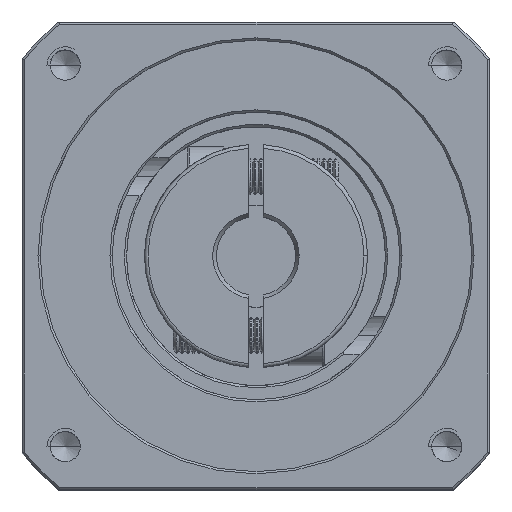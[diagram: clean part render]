
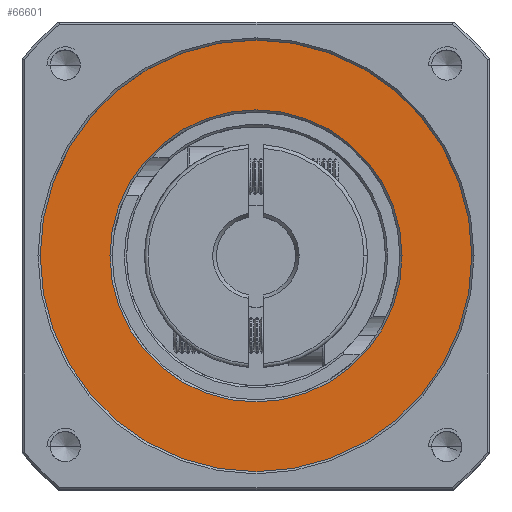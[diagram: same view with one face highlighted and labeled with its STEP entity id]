
A CAD part, top view. The second image highlights one B-rep face of the part: STEP entity #66601.
In plain terms, the highlighted planar face has unit normal (0, 0, 1).
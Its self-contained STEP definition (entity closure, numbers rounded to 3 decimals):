
#83 = DIRECTION ( 'NONE',  ( 0., 0., 1. ) ) ;
#1855 = ORIENTED_EDGE ( 'NONE', *, *, #32739, .T. ) ;
#6867 = AXIS2_PLACEMENT_3D ( 'NONE', #15911, #16289, #63789 ) ;
#12325 = VERTEX_POINT ( 'NONE', #38312 ) ;
#12910 = AXIS2_PLACEMENT_3D ( 'NONE', #52652, #28027, #35038 ) ;
#15540 = CIRCLE ( 'NONE', #57339, 30. ) ;
#15911 = CARTESIAN_POINT ( 'NONE',  ( -61.9, 23.265, 17.333 ) ) ;
#16289 = DIRECTION ( 'NONE',  ( 0., 0., 1. ) ) ;
#17700 = VERTEX_POINT ( 'NONE', #97624 ) ;
#17838 = DIRECTION ( 'NONE',  ( 1., 0., 0. ) ) ;
#20551 = ORIENTED_EDGE ( 'NONE', *, *, #92942, .T. ) ;
#22013 = EDGE_CURVE ( 'NONE', #17700, #22498, #64901, .T. ) ;
#22498 = VERTEX_POINT ( 'NONE', #78867 ) ;
#23846 = CARTESIAN_POINT ( 'NONE',  ( -61.9, 23.265, 17.333 ) ) ;
#27054 = EDGE_LOOP ( 'NONE', ( #20551, #105426 ) ) ;
#27997 = CARTESIAN_POINT ( 'NONE',  ( -61.9, 23.265, 17.333 ) ) ;
#28027 = DIRECTION ( 'NONE',  ( 0., 0., -1. ) ) ;
#32739 = EDGE_CURVE ( 'NONE', #12325, #44947, #79956, .T. ) ;
#35038 = DIRECTION ( 'NONE',  ( 1., 0., 0. ) ) ;
#36054 = DIRECTION ( 'NONE',  ( 0., 0., -1. ) ) ;
#38312 = CARTESIAN_POINT ( 'NONE',  ( -41.6, 23.265, 17.333 ) ) ;
#44947 = VERTEX_POINT ( 'NONE', #86446 ) ;
#49536 = AXIS2_PLACEMENT_3D ( 'NONE', #27997, #36054, #94607 ) ;
#51023 = CARTESIAN_POINT ( 'NONE',  ( -61.9, 23.265, 17.333 ) ) ;
#52652 = CARTESIAN_POINT ( 'NONE',  ( -61.9, 23.265, 17.333 ) ) ;
#57339 = AXIS2_PLACEMENT_3D ( 'NONE', #23846, #57979, #107777 ) ;
#57979 = DIRECTION ( 'NONE',  ( 0., 0., 1. ) ) ;
#62618 = FACE_OUTER_BOUND ( 'NONE', #27054, .T. ) ;
#63789 = DIRECTION ( 'NONE',  ( 1., 0., 0. ) ) ;
#63912 = CIRCLE ( 'NONE', #49536, 20.3 ) ;
#64901 = CIRCLE ( 'NONE', #83578, 30. ) ;
#66601 = ADVANCED_FACE ( 'NONE', ( #104823, #62618 ), #91116, .T. ) ;
#69587 = EDGE_LOOP ( 'NONE', ( #1855, #101903 ) ) ;
#78867 = CARTESIAN_POINT ( 'NONE',  ( -31.9, 23.265, 17.333 ) ) ;
#79956 = CIRCLE ( 'NONE', #12910, 20.3 ) ;
#83578 = AXIS2_PLACEMENT_3D ( 'NONE', #51023, #83, #17838 ) ;
#86446 = CARTESIAN_POINT ( 'NONE',  ( -82.2, 23.265, 17.333 ) ) ;
#89114 = EDGE_CURVE ( 'NONE', #44947, #12325, #63912, .T. ) ;
#91116 = PLANE ( 'NONE',  #6867 ) ;
#92942 = EDGE_CURVE ( 'NONE', #22498, #17700, #15540, .T. ) ;
#94607 = DIRECTION ( 'NONE',  ( 1., 0., 0. ) ) ;
#97624 = CARTESIAN_POINT ( 'NONE',  ( -91.9, 23.265, 17.333 ) ) ;
#101903 = ORIENTED_EDGE ( 'NONE', *, *, #89114, .T. ) ;
#104823 = FACE_BOUND ( 'NONE', #69587, .T. ) ;
#105426 = ORIENTED_EDGE ( 'NONE', *, *, #22013, .T. ) ;
#107777 = DIRECTION ( 'NONE',  ( 1., 0., 0. ) ) ;
